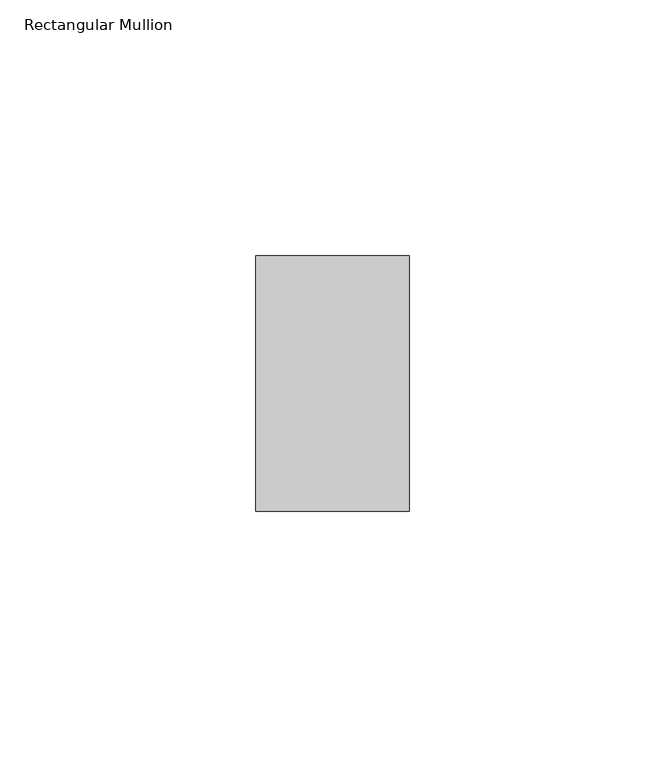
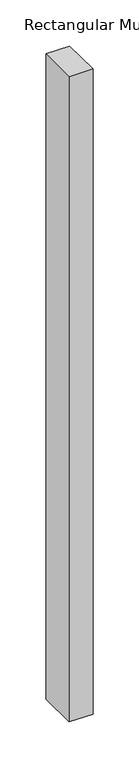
"""IFC4 building model written with IfcOpenShell, lengths in millimetres: member geometry, Rectangular Mullion : ARQ_TV_MULL_50x30mm."""

from ifc_helpers import new_model, si_unit, frame, origin, place, context, project, spatial, polyline, outline, extrude, source, transform, mapped, element, save


def rectangular_mullion_753db272(model_context):
    return source(origin(), model_context, "Body", "SweptSolid", [
        extrude(outline(polyline([(0.0, 25.0), (0.0, -25.0), (-30.0, -25.0), (-30.0, 25.0), (0.0, 25.0)])), frame((0.0, 0.0, -855.0), z_axis=(0.0, 0.0, 1.0), x_axis=(1.0, 0.0, 0.0)), (0.0, 0.0, 1.0), 855.0),
    ])


if __name__ == "__main__":
    model = new_model("IFC4")
    model_context = context("Model", 3, world=origin())
    ifc_project = project(units=[si_unit("LENGTHUNIT", "METRE", prefix="MILLI")], contexts=[model_context])
    site = spatial("IfcSite", under=ifc_project)
    building = spatial("IfcBuilding", under=site)
    placement = place(None, origin())
    rectangular_mullion_shape = rectangular_mullion_753db272(model_context)
    element("IfcMember", 1, ObjectType="Rectangular Mullion : ARQ_TV_MULL_50x30mm", at=placement, inside=building, context=model_context, shape_type="MappedRepresentation", body=[
        mapped(rectangular_mullion_shape, transform((0.0, 0.0, 0.0), x_axis=(1.0, 0.0, 0.0), y_axis=(0.0, 1.0, 0.0), z_axis=(0.0, 0.0, 1.0))),
    ])
    save(model, "model.ifc")
